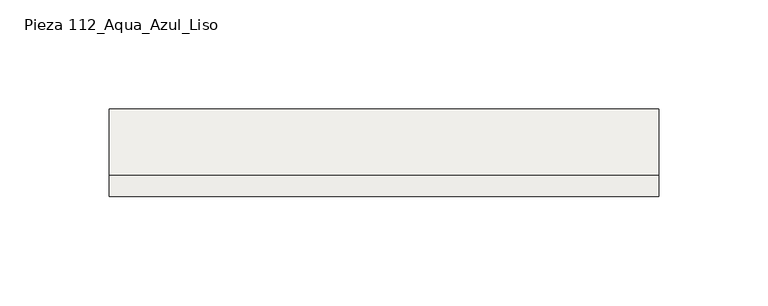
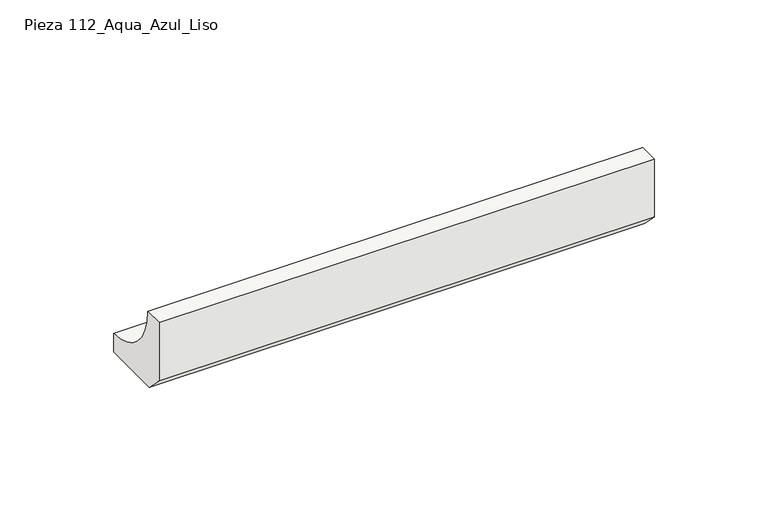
"""IFC4 building model written with IfcOpenShell, lengths in millimetres: slab geometry, ROSA GRES_112 : Pieza 112_Aqua_Azul_Liso."""

import ifcopenshell
import ifcopenshell.guid

model = None  # the IFC model being written
_history = None  # IfcOwnerHistory: only IFC2X3 demands one
_inside = {}  # id of a spatial element -> (the spatial element, [elements in it])
_under = {}  # id of a project, library or spatial element -> (it, [spatial elements below it])
_declared = {}  # id of a project -> (the project, [libraries it declares])
_typed = {}  # id of a type object -> (the type object, [elements of that type])
_made_of = {}  # id of a material, layer set ... -> (it, [elements and type objects made of it])


def new_model(schema):
    """Start an empty IFC model of exactly this schema.

    Asked for "IFC4X3", IfcOpenShell would pick the latest addendum, in which some entities
    have other attributes; the version numbers below select the first issue.
    IFC2X3 requires an IfcOwnerHistory on every rooted entity: one is made here for all.
    """
    global model, _history
    if schema == "IFC4X3":
        model = ifcopenshell.file(schema_version=(4, 3, 0, 0))
    else:
        model = ifcopenshell.file(schema=schema)
    _inside.clear()
    _under.clear()
    _declared.clear()
    _typed.clear()
    _made_of.clear()
    _history = None
    if model.schema == "IFC2X3":
        org = make("IfcOrganization", Name="unknown")
        user = make(
            "IfcPersonAndOrganization",
            ThePerson=make("IfcPerson", FamilyName="unknown"),
            TheOrganization=org,
        )
        app = make(
            "IfcApplication",
            ApplicationDeveloper=org,
            Version="unknown",
            ApplicationFullName="unknown",
            ApplicationIdentifier="unknown",
        )
        _history = make(
            "IfcOwnerHistory",
            OwningUser=user,
            OwningApplication=app,
            ChangeAction="ADDED",
            CreationDate=0,
        )
    return model


def make(cls, **values):
    """One entity of the class cls with the attributes given. An attribute that is None is left unset."""
    return model.create_entity(
        cls, **{name: value for name, value in values.items() if value is not None}
    )


def rooted(cls, **values):
    """An entity with a GlobalId (a new one), such as an element, a storey or a relation."""
    return make(cls, GlobalId=ifcopenshell.guid.new(), OwnerHistory=_history, **values)


def si_unit(unit_type, name, prefix=None):
    """IfcSIUnit, for example si_unit("LENGTHUNIT", "METRE", prefix="MILLI")."""
    return make("IfcSIUnit", UnitType=unit_type, Prefix=prefix, Name=name)


def assignment(units):
    """IfcUnitAssignment: the units of a project."""
    return None if units is None else make("IfcUnitAssignment", Units=units)


def point(xyz):
    """IfcCartesianPoint."""
    return None if xyz is None else make("IfcCartesianPoint", Coordinates=xyz)


def direction(xyz):
    """IfcDirection."""
    return None if xyz is None else make("IfcDirection", DirectionRatios=xyz)


def frame(location, z_axis=None, x_axis=None):
    """IfcAxis2Placement3D, a coordinate frame: its origin and axes. An axis left out is left unset."""
    return make(
        "IfcAxis2Placement3D",
        Location=point(location),
        Axis=direction(z_axis),
        RefDirection=direction(x_axis),
    )


def frame_2d(location, x_axis=None):
    """IfcAxis2Placement2D, a coordinate frame in the plane: its origin and x axis."""
    return make(
        "IfcAxis2Placement2D", Location=point(location), RefDirection=direction(x_axis)
    )


def origin():
    """The frame at (0, 0, 0) with its axes left unset."""
    return frame((0.0, 0.0, 0.0))


def place(relative_to, where):
    """IfcLocalPlacement: puts the frame where relative to a parent placement (None: the world)."""
    return make(
        "IfcLocalPlacement", PlacementRelTo=relative_to, RelativePlacement=where
    )


def context(
    kind, dimensions, precision=None, world=None, true_north=None, identifier=None
):
    """IfcGeometricRepresentationContext, for example the 3D "Model" context."""
    return make(
        "IfcGeometricRepresentationContext",
        ContextIdentifier=identifier,
        ContextType=kind,
        CoordinateSpaceDimension=dimensions,
        Precision=precision,
        WorldCoordinateSystem=world,
        TrueNorth=true_north,
    )


def project(units=None, contexts=None):
    """IfcProject with its units and contexts."""
    return rooted(
        "IfcProject",
        Name="project",
        RepresentationContexts=contexts,
        UnitsInContext=assignment(units),
    )


def spatial(cls, under=None, at=None, **own):
    """A site, building, storey or space (cls), placed at a placement, below another one or the project."""
    s = rooted(cls, ObjectPlacement=at, **own)
    if under is not None:
        _under.setdefault(under.id(), (under, []))[1].append(s)
    return s


def polyline(points):
    """IfcPolyline through the points."""
    return make("IfcPolyline", Points=[point(p) for p in points])


def circle_curve(where, radius):
    """IfcCircle in the frame where."""
    return make("IfcCircle", Position=where, Radius=radius)


def trimmed(basis, trim1, trim2, sense, master):
    """IfcTrimmedCurve: the piece of a basis curve between two trims."""
    return make(
        "IfcTrimmedCurve",
        BasisCurve=basis,
        Trim1=trim1,
        Trim2=trim2,
        SenseAgreement=sense,
        MasterRepresentation=master,
    )


def segment(curve, same_sense, transition):
    """IfcCompositeCurveSegment."""
    return make(
        "IfcCompositeCurveSegment",
        Transition=transition,
        SameSense=same_sense,
        ParentCurve=curve,
    )


def composite_curve(segments, self_intersect=None):
    """IfcCompositeCurve: segments joined end to end."""
    return make("IfcCompositeCurve", Segments=segments, SelfIntersect=self_intersect)


def outline(outer, holes=None, kind="AREA"):
    """IfcArbitraryClosedProfileDef: a profile drawn as a closed curve; with holes, ...WithVoids."""
    if holes is None:
        return make("IfcArbitraryClosedProfileDef", ProfileType=kind, OuterCurve=outer)
    return make(
        "IfcArbitraryProfileDefWithVoids",
        ProfileType=kind,
        OuterCurve=outer,
        InnerCurves=holes,
    )


def extrude(swept, where, along, depth):
    """IfcExtrudedAreaSolid: the profile swept, set in the frame where, extruded along a direction by depth."""
    return make(
        "IfcExtrudedAreaSolid",
        SweptArea=swept,
        Position=where,
        ExtrudedDirection=direction(along),
        Depth=depth,
    )


def shape(context_of_items, identifier, shape_type, items):
    """IfcShapeRepresentation: the items that make up one representation, for example the "Body"."""
    return make(
        "IfcShapeRepresentation",
        ContextOfItems=context_of_items,
        RepresentationIdentifier=identifier,
        RepresentationType=shape_type,
        Items=items,
    )


def source(mapping_origin, context_of_items, identifier, shape_type, items):
    """IfcRepresentationMap: a shape defined once, which mapped items show again and again."""
    return make(
        "IfcRepresentationMap",
        MappingOrigin=mapping_origin,
        MappedRepresentation=shape(context_of_items, identifier, shape_type, items),
    )


def transform(
    local_origin,
    x_axis=None,
    y_axis=None,
    z_axis=None,
    scale=None,
    scale2=None,
    scale3=None,
    uniform=True,
):
    """IfcCartesianTransformationOperator3D, or its non-uniform kind. x_axis, y_axis, z_axis: its Axis1, 2, 3."""
    if uniform:
        return make(
            "IfcCartesianTransformationOperator3D",
            Axis1=direction(x_axis),
            Axis2=direction(y_axis),
            LocalOrigin=point(local_origin),
            Scale=scale,
            Axis3=direction(z_axis),
        )
    return make(
        "IfcCartesianTransformationOperator3DnonUniform",
        Axis1=direction(x_axis),
        Axis2=direction(y_axis),
        LocalOrigin=point(local_origin),
        Scale=scale,
        Axis3=direction(z_axis),
        Scale2=scale2,
        Scale3=scale3,
    )


def mapped(mapping_source, mapping_target):
    """IfcMappedItem: shows the shape of a source again, moved by a transform."""
    return make(
        "IfcMappedItem", MappingSource=mapping_source, MappingTarget=mapping_target
    )


def made_of(thing, what):
    """Note that an element or type object is made of a material, layer set ...; save() writes the relation."""
    if what is not None:
        _made_of.setdefault(what.id(), (what, []))[1].append(thing)
    return thing


def element(
    cls,
    number,
    at=None,
    inside=None,
    cuts=None,
    type_object=None,
    material=None,
    context=None,
    identifier="Body",
    shape_type=None,
    held_by="IfcProductDefinitionShape",
    body=None,
    shapes=None,
    **own,
):
    """One element of the class cls, such as IfcWall. Its Tag is "e" and its number.

    at: its placement. inside: the storey or other place that contains it. cuts: it is an
    opening in that element (IfcRelVoidsElement). A single representation is given by context,
    identifier, shape_type and body (its items); several are given by shapes. held_by: the class
    of the entity that holds the representations. save() writes the other relations.
    """
    e = rooted(cls, Tag="e%d" % number, ObjectPlacement=at, **own)
    if body is not None:
        shapes = [shape(context, identifier, shape_type, body)]
    if shapes is not None:
        e.Representation = make(held_by, Representations=shapes)
    if inside is not None:
        _inside.setdefault(inside.id(), (inside, []))[1].append(e)
    if cuts is not None:
        rooted(
            "IfcRelVoidsElement", RelatingBuildingElement=cuts, RelatedOpeningElement=e
        )
    if type_object is not None:
        _typed.setdefault(type_object.id(), (type_object, []))[1].append(e)
    return made_of(e, material)


def aggregate(whole, parts):
    """IfcRelAggregates: a whole, such as a stair, and the parts it consists of."""
    return rooted("IfcRelAggregates", RelatingObject=whole, RelatedObjects=parts)


def save(model, path):
    """Write the relations noted so far, then the file.

    IfcRelAggregates (storeys below a building ...), IfcRelContainedInSpatialStructure (elements
    in a storey), IfcRelDefinesByType, IfcRelAssociatesMaterial and IfcRelDeclares: one each for
    every whole, place, type object, material and project.
    """
    for whole, parts in _under.values():
        aggregate(whole, parts)
    for where, things in _inside.values():
        rooted(
            "IfcRelContainedInSpatialStructure",
            RelatedElements=things,
            RelatingStructure=where,
        )
    for kind, things in _typed.values():
        rooted("IfcRelDefinesByType", RelatedObjects=things, RelatingType=kind)
    for what, things in _made_of.values():
        rooted("IfcRelAssociatesMaterial", RelatedObjects=things, RelatingMaterial=what)
    for by, libraries in _declared.values():
        rooted("IfcRelDeclares", RelatingContext=by, RelatedDefinitions=libraries)
    model.write(path)


def pieza_112_aqua_azul_liso_0d17003f(model_context):
    return source(origin(), model_context, "Body", "SweptSolid", [
        extrude(outline(composite_curve([segment(polyline([(0.0, 8.7114978), (0.0, 40.0), (9.9734114, 40.0)]), True, "CONTINUOUS"), segment(trimmed(circle_curve(frame_2d((39.9955547, 39.9955547)), 30.0221435), [point((9.9734114, 40.0))], [point((40.0, 9.9734114))], True, "CARTESIAN"), True, "CONTINUOUS"), segment(polyline([(40.0, 9.9734114), (40.0, 0.0), (8.7114978, 0.0), (0.0, 8.7114978)]), True, "CONTINUOUS")], self_intersect=False)), frame((0.0, 0.0, 0.0), z_axis=(1.0, 0.0, 0.0), x_axis=(0.0, 1.0, 0.0)), (0.0, 0.0, 1.0), 251.1254203),
    ])


if __name__ == "__main__":
    model = new_model("IFC4")
    model_context = context("Model", 3, world=origin())
    ifc_project = project(units=[si_unit("LENGTHUNIT", "METRE", prefix="MILLI")], contexts=[model_context])
    site = spatial("IfcSite", under=ifc_project)
    building = spatial("IfcBuilding", under=site)
    placement = place(None, origin())
    pieza_112_aqua_azul_liso_shape = pieza_112_aqua_azul_liso_0d17003f(model_context)
    element("IfcSlab", 1, ObjectType="ROSA GRES_112 : Pieza 112_Aqua_Azul_Liso", at=placement, inside=building, context=model_context, shape_type="MappedRepresentation", body=[
        mapped(pieza_112_aqua_azul_liso_shape, transform((0.0, 0.0, 0.0), x_axis=(1.0, 0.0, 0.0), y_axis=(0.0, 1.0, 0.0), z_axis=(0.0, 0.0, 1.0))),
    ])
    save(model, "model.ifc")
